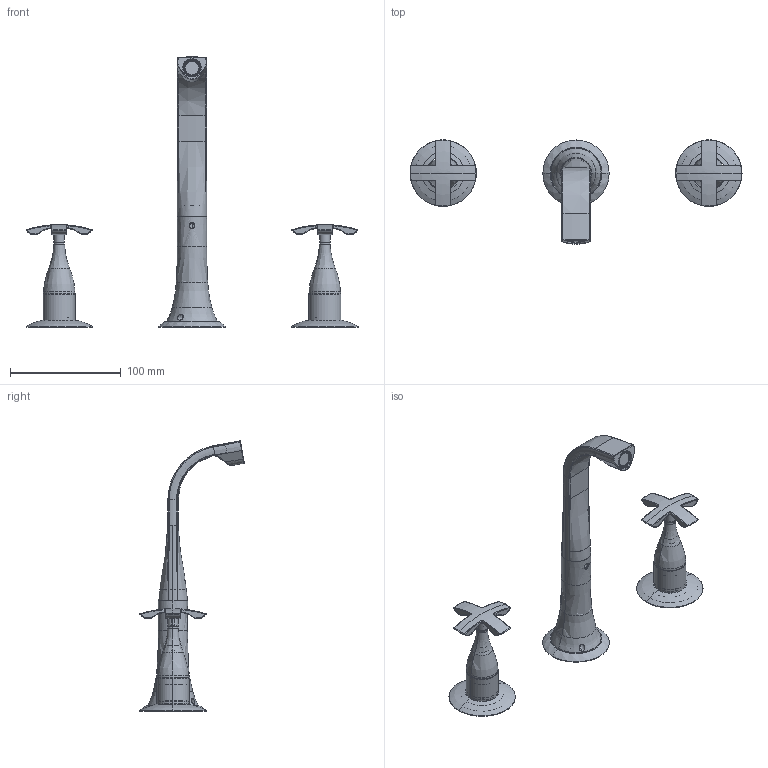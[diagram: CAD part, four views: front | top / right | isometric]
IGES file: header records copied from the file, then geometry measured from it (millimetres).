
Start section:  PTC IGES file: 62034_sw0001.igs
Global section: file name: 62034_sw0001.igs; native system: Creo Parametric by PTC Inc.; preprocessor: 2022014; author: volponeff; organization: Unknown; date: 20260206.083540; units: millimetre
Bounding box: 300 x 94.5 x 244.12 mm (x, y, z)
Surface area: 107589.9 mm2 (no closed solid volume)
Topology: 0 solids, 0 shells, 1153 faces, 5576 edges, 5562 vertices
Faces by surface type: revolution 696, bspline 457
